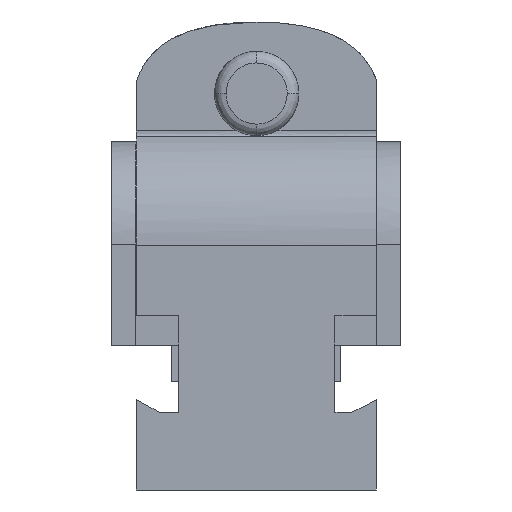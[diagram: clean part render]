
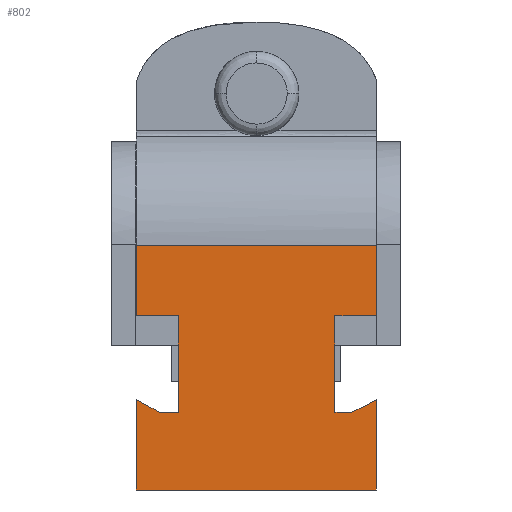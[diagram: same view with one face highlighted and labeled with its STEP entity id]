
A CAD part, left-side view. The second image highlights one B-rep face of the part: STEP entity #802.
In plain terms, the highlighted planar face has unit normal (-1, 0, 0).
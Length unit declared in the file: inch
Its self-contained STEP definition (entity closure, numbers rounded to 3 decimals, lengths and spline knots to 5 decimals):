
#432=EDGE_CURVE('',#1214,#1215,#1216,.T.);
#464=EDGE_CURVE('',#1271,#1272,#1273,.T.);
#510=EDGE_CURVE('',#1272,#1320,#1352,.T.);
#520=EDGE_CURVE('',#1364,#1271,#1365,.T.);
#580=EDGE_CURVE('',#1460,#1461,#1462,.T.);
#582=EDGE_CURVE('',#1464,#1461,#1465,.T.);
#656=EDGE_CURVE('',#1371,#1214,#1578,.T.);
#698=EDGE_CURVE('',#1640,#1641,#1642,.T.);
#764=EDGE_CURVE('',#1320,#1738,#1739,.T.);
#788=EDGE_CURVE('',#1641,#1773,#1774,.T.);
#802=ADVANCED_FACE('',(#1795),#1796,.T.);
#822=EDGE_CURVE('',#1738,#1640,#1821,.T.);
#862=EDGE_CURVE('',#1215,#1364,#1871,.T.);
#870=EDGE_CURVE('',#1773,#1464,#1879,.T.);
#1062=EDGE_CURVE('',#1460,#1371,#2124,.T.);
#1214=VERTEX_POINT('',#2306);
#1215=VERTEX_POINT('',#2307);
#1216=LINE('',#2308,#2309);
#1271=VERTEX_POINT('',#2403);
#1272=VERTEX_POINT('',#2404);
#1273=LINE('',#2405,#2406);
#1320=VERTEX_POINT('',#2492);
#1352=LINE('',#2544,#2545);
#1364=VERTEX_POINT('',#2562);
#1365=LINE('',#2563,#2564);
#1371=VERTEX_POINT('',#2573);
#1460=VERTEX_POINT('',#2770);
#1461=VERTEX_POINT('',#2771);
#1462=LINE('',#2772,#2773);
#1464=VERTEX_POINT('',#2776);
#1465=LINE('',#2777,#2778);
#1578=LINE('',#3043,#3044);
#1640=VERTEX_POINT('',#3143);
#1641=VERTEX_POINT('',#3144);
#1642=LINE('',#3145,#3146);
#1738=VERTEX_POINT('',#3302);
#1739=LINE('',#3303,#3304);
#1773=VERTEX_POINT('',#3468);
#1774=LINE('',#3469,#3470);
#1795=FACE_OUTER_BOUND('',#3511,.T.);
#1796=PLANE('',#3512);
#1821=LINE('',#3564,#3565);
#1871=LINE('',#3668,#3669);
#1879=LINE('',#3684,#3685);
#2124=LINE('',#4178,#4179);
#2306=CARTESIAN_POINT('',(0.00029,1.02776,0.90389));
#2307=CARTESIAN_POINT('',(0.00013,1.02776,0.40382));
#2308=CARTESIAN_POINT('',(0.00021,1.02776,0.64469));
#2309=VECTOR('',#4414,1.);
#2403=CARTESIAN_POINT('',(0.00015,1.24627,0.46963));
#2404=CARTESIAN_POINT('',(0.0,1.24627,0.0));
#2405=CARTESIAN_POINT('',(0.00014,1.24627,0.41976));
#2406=VECTOR('',#4451,1.);
#2492=CARTESIAN_POINT('',(0.0,0.0,0.0));
#2544=CARTESIAN_POINT('',(0.0,1.25,0.0));
#2545=VECTOR('',#4493,1.0);
#2562=CARTESIAN_POINT('',(0.00013,1.12731,0.40382));
#2563=CARTESIAN_POINT('',(0.00015,1.25309,0.4734));
#2564=VECTOR('',#4512,1.);
#2573=CARTESIAN_POINT('',(0.00029,1.24627,0.90389));
#2770=CARTESIAN_POINT('',(0.00041,1.24627,1.27018));
#2771=CARTESIAN_POINT('',(0.00041,0.0,1.27018));
#2772=CARTESIAN_POINT('',(0.00041,1.25,1.27018));
#2773=VECTOR('',#4667,1.0);
#2776=CARTESIAN_POINT('',(0.00029,0.0,0.90389));
#2777=CARTESIAN_POINT('',(0.0,0.0,0.0));
#2778=VECTOR('',#4668,1.);
#3043=CARTESIAN_POINT('',(0.00029,1.19351,0.90389));
#3044=VECTOR('',#4845,1.0);
#3143=CARTESIAN_POINT('',(0.00013,0.12731,0.40382));
#3144=CARTESIAN_POINT('',(0.00013,0.21526,0.40382));
#3145=CARTESIAN_POINT('',(0.00013,0.71064,0.40382));
#3146=VECTOR('',#4922,1.0);
#3302=CARTESIAN_POINT('',(0.00015,0.0,0.46775));
#3303=CARTESIAN_POINT('',(0.0,0.0,0.0));
#3304=VECTOR('',#5078,1.);
#3468=CARTESIAN_POINT('',(0.00029,0.21526,0.90389));
#3469=CARTESIAN_POINT('',(0.00021,0.21526,0.64469));
#3470=VECTOR('',#5130,1.);
#3511=EDGE_LOOP('',(#5160,#5161,#5162,#5163,#5164,#5165,#5166,#5167,#5168,#5169,#5170,#5171,#5172,#5173));
#3512=AXIS2_PLACEMENT_3D('',#5174,#5175,#5176);
#3564=CARTESIAN_POINT('',(0.00007,0.49636,0.21847));
#3565=VECTOR('',#5227,1.0);
#3668=CARTESIAN_POINT('',(0.00013,1.16377,0.40382));
#3669=VECTOR('',#5256,1.0);
#3684=CARTESIAN_POINT('',(0.00029,0.67788,0.90389));
#3685=VECTOR('',#5260,1.0);
#4178=CARTESIAN_POINT('',(0.00035,1.24627,1.07348));
#4179=VECTOR('',#5688,1.);
#4414=DIRECTION('',(0.,-0.0,-1.));
#4451=DIRECTION('',(0.,-0.0,-1.));
#4493=DIRECTION('',(0.0,-1.0,0.0));
#4512=DIRECTION('',(0.,0.875,0.484));
#4667=DIRECTION('',(0.0,-1.0,0.0));
#4668=DIRECTION('',(0.,0.0,1.));
#4845=DIRECTION('',(0.0,-1.0,0.0));
#4922=DIRECTION('',(-0.0,1.0,-0.0));
#5078=DIRECTION('',(0.,0.0,1.));
#5130=DIRECTION('',(0.,0.0,1.));
#5160=ORIENTED_EDGE('',*,*,#464,.T.);
#5161=ORIENTED_EDGE('',*,*,#510,.T.);
#5162=ORIENTED_EDGE('',*,*,#764,.T.);
#5163=ORIENTED_EDGE('',*,*,#822,.T.);
#5164=ORIENTED_EDGE('',*,*,#698,.T.);
#5165=ORIENTED_EDGE('',*,*,#788,.T.);
#5166=ORIENTED_EDGE('',*,*,#870,.T.);
#5167=ORIENTED_EDGE('',*,*,#582,.T.);
#5168=ORIENTED_EDGE('',*,*,#580,.F.);
#5169=ORIENTED_EDGE('',*,*,#1062,.T.);
#5170=ORIENTED_EDGE('',*,*,#656,.T.);
#5171=ORIENTED_EDGE('',*,*,#432,.T.);
#5172=ORIENTED_EDGE('',*,*,#862,.T.);
#5173=ORIENTED_EDGE('',*,*,#520,.T.);
#5174=CARTESIAN_POINT('',(0.00021,1.25,0.63509));
#5175=DIRECTION('',(-1.,0.0,0.));
#5176=DIRECTION('',(0.,0.0,-1.));
#5227=DIRECTION('',(0.,0.894,-0.449));
#5256=DIRECTION('',(-0.0,1.0,-0.0));
#5260=DIRECTION('',(0.0,-1.0,0.0));
#5688=DIRECTION('',(0.,-0.0,-1.));
